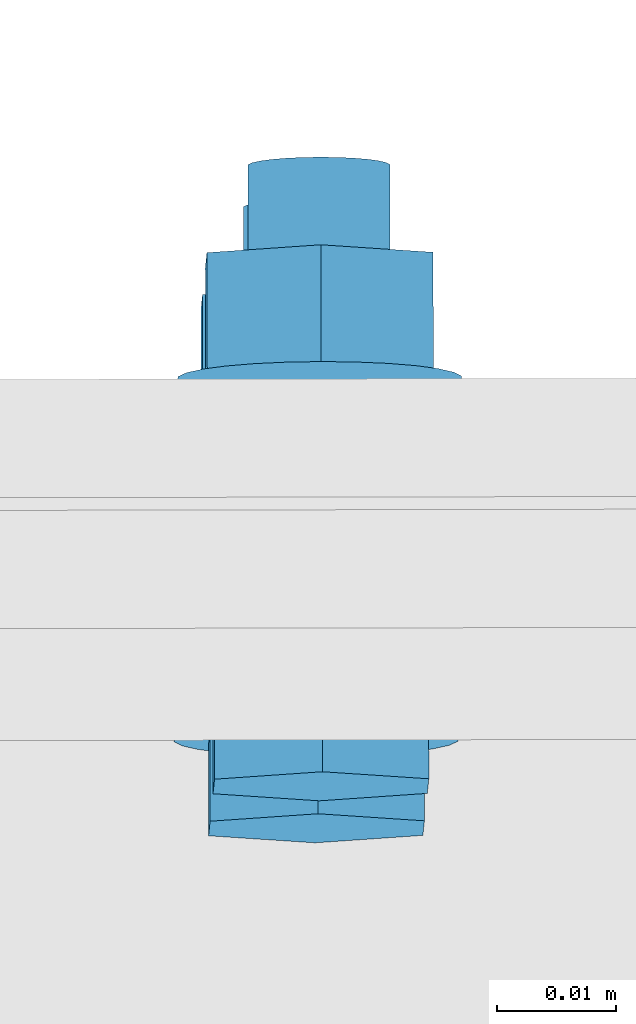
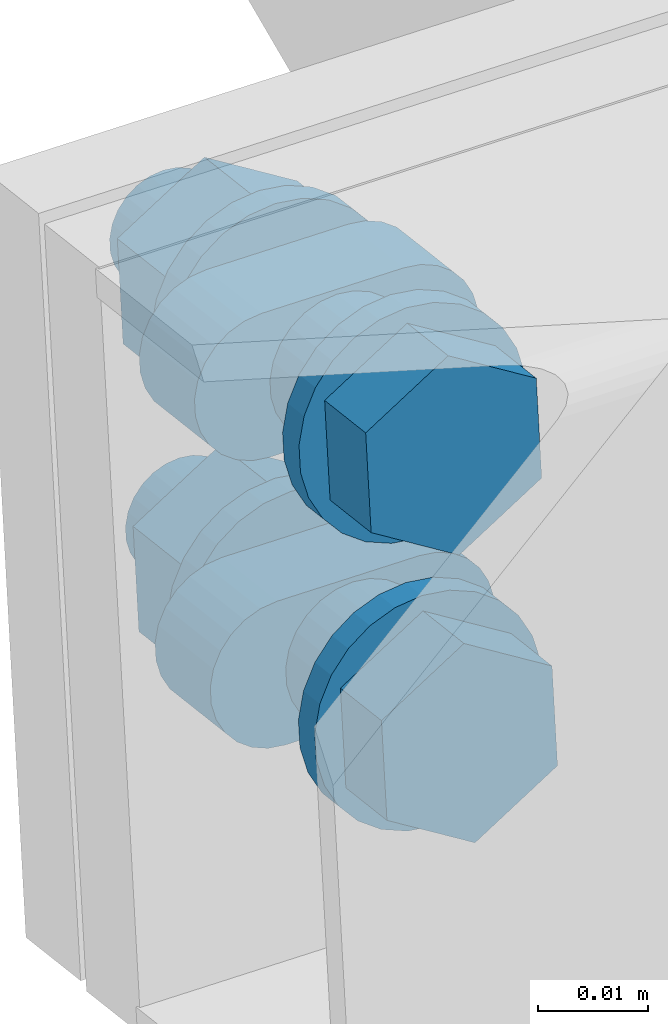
# One storey, part 156 of 169: 1 mechanical fastener, 1 element without a shape of its own.
"""IFC2X3 building model written with IfcOpenShell, lengths in millimetres."""

from ifc_helpers import new_model, si_unit, frame, frame_2d, origin_with_axes, origin_2d_with_axis, place, context, subcontext, project, spatial, polyline, circle_curve, parameter, trimmed, segment, composite_curve, circle, outline, extrude, source, transform, mapped, material, type_object, element, aggregate, save


model = new_model("IFC2X3")

# Units and contexts
model_context = context("Model", 3, precision=1e-05, world=origin_with_axes())
body_context = subcontext(model_context, "Body", "Model", "MODEL_VIEW")
ifc_project = project(units=[si_unit("LENGTHUNIT", "METRE", prefix="MILLI"), si_unit("AREAUNIT", "SQUARE_METRE"), si_unit("VOLUMEUNIT", "CUBIC_METRE"), si_unit("MASSUNIT", "GRAM", prefix="KILO"), si_unit("TIMEUNIT", "SECOND"), si_unit("PLANEANGLEUNIT", "RADIAN"), si_unit("SOLIDANGLEUNIT", "STERADIAN"), si_unit("THERMODYNAMICTEMPERATUREUNIT", "DEGREE_CELSIUS"), si_unit("LUMINOUSINTENSITYUNIT", "LUMEN")], contexts=[model_context])

# Site, building, storey
site_placement = place(None, origin_with_axes())
site = spatial("IfcSite", under=ifc_project, at=site_placement, Name="Undefined", CompositionType="ELEMENT")
building_placement = place(site_placement, origin_with_axes())
building = spatial("IfcBuilding", under=site, at=building_placement, Name="Undefined", CompositionType="ELEMENT")
storey_placement = place(building_placement, origin_with_axes())
storey = spatial("IfcBuildingStorey", under=building, at=storey_placement, Name="Undefined", CompositionType="ELEMENT", Elevation=0.0)

# Assembly, mechanical fastener
assembly_placement = place(storey_placement, origin_with_axes())
assembly = element("IfcElementAssembly", 1, at=assembly_placement, inside=storey, Name="Steel Assembly", AssemblyPlace="NOTDEFINED", PredefinedType="RIGID_FRAME")
ifc_material = material(Name="Undefined")
discrete_accessory_type = type_object("IfcDiscreteAccessoryType", Name="Bolt assembly")
shared_shape = source(origin_with_axes(), body_context, "Body", "SweptSolid", [
    extrude(circle(Radius=7.5, at=origin_2d_with_axis()), frame((0.0, -10.3999999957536, 0.0), z_axis=(0.0, 1.0, 0.0), x_axis=(1.0, 0.0, 0.0)), (0.0, 0.0, 1.0), 10.0),
    extrude(outline(composite_curve([segment(polyline([(7.5, 7.5), (7.5, -7.5)]), True, "CONTINUOUS"), segment(trimmed(circle_curve(frame_2d((0.0, -7.5), x_axis=(1.0, 0.0)), 7.5), [parameter(0.0)], [parameter(3.14159265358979)], False, "PARAMETER"), True, "CONTINUOUS"), segment(polyline([(-7.5, -7.5), (-7.5, 7.5)]), True, "CONTINUOUS"), segment(trimmed(circle_curve(frame_2d((0.0, 7.5), x_axis=(-1.0, 0.0)), 7.5), [parameter(0.0)], [parameter(3.14159265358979)], False, "PARAMETER"), True, "DISCONTINUOUS")], self_intersect=False)), frame((0.0, 0.400000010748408, 0.0), z_axis=(0.0, 1.0, 0.0), x_axis=(1.0, 0.0, 0.0)), (0.0, 0.0, 1.0), 10.1),
    extrude(outline(polyline([(10.39230484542, 0.0), (5.19615242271, 9.00000000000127), (-5.19615242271, 9.00000000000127), (-10.39230484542, 0.0), (-5.19615242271, -9.00000000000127), (5.19615242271, -9.00000000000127), (10.39230484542, 0.0)])), frame((0.0, -20.9999999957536, 0.0), z_axis=(0.0, 1.0, 0.0), x_axis=(1.0, 0.0, 0.0)), (0.0, 0.0, 1.0), 7.5),
    extrude(circle(Radius=6.0, at=origin_2d_with_axis()), frame((0.0, -13.4999999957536, 0.0), z_axis=(0.0, 1.0, 0.0), x_axis=(1.0, 0.0, 0.0)), (0.0, 0.0, 1.0), 45.0),
    extrude(circle(Radius=12.0, at=origin_2d_with_axis()), frame((0.0, -13.4999999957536, 0.0), z_axis=(0.0, 1.0, 0.0), x_axis=(1.0, 0.0, 0.0)), (0.0, 0.0, 1.0), 3.0),
    extrude(circle(Radius=12.0, at=origin_2d_with_axis()), frame((0.0, 10.500000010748, 0.0), z_axis=(0.0, 1.0, 0.0), x_axis=(1.0, 0.0, 0.0)), (0.0, 0.0, 1.0), 3.0),
    extrude(outline(polyline([(10.96965511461, 0.0), (5.484827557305, 9.50000000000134), (-5.484827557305, 9.50000000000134), (-10.96965511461, 0.0), (-5.484827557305, -9.50000000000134), (5.484827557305, -9.50000000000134), (10.96965511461, 0.0)])), frame((0.0, 13.500000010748, 0.0), z_axis=(0.0, 1.0, 0.0), x_axis=(1.0, 0.0, 0.0)), (0.0, 0.0, 1.0), 10.0),
])
mechanical_fastener_placement = place(assembly_placement, frame((1373.18396464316, -1408.56550843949, 13916.8907586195), z_axis=(-0.999917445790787, -0.00186469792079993, 0.0127131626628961), x_axis=(0.0124056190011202, 0.117622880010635, 0.992980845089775)))
mechanical_fastener = element("IfcMechanicalFastener", 2, at=mechanical_fastener_placement, type_object=discrete_accessory_type, material=ifc_material, Name="Bolt assembly", NominalDiameter=12.0, NominalLength=45.0, context=body_context, shape_type="MappedRepresentation", body=[
    mapped(shared_shape, transform((-5.00346994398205, 1.00044417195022e-11, 58.9975204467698))),
    mapped(shared_shape, transform((24.9965305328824, -2.72848410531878e-11, 58.997520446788))),
])
aggregate(assembly, [mechanical_fastener])

save(model, "model.ifc")
